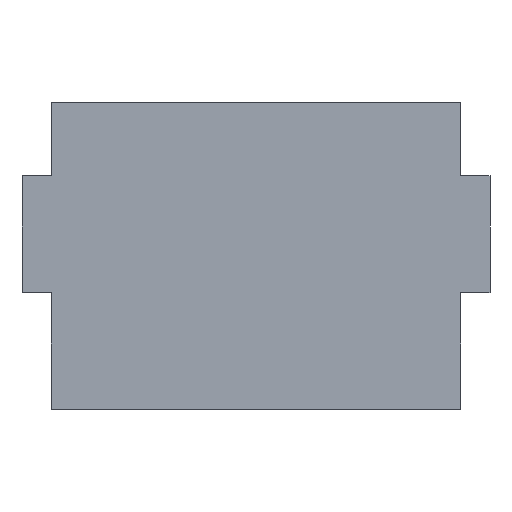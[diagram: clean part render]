
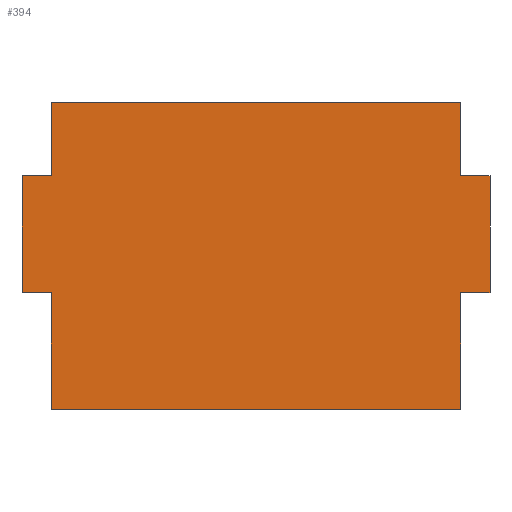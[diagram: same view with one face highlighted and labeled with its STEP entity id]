
A CAD part, front view. The second image highlights one B-rep face of the part: STEP entity #394.
In plain terms, the highlighted planar face has unit normal (0, -1, 0).
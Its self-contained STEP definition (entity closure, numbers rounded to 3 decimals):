
#3 = CARTESIAN_POINT ( 'NONE',  ( -14., -1.5, 11.869 ) ) ;
#6 = EDGE_CURVE ( 'NONE', #433, #162, #389, .T. ) ;
#12 = ORIENTED_EDGE ( 'NONE', *, *, #346, .T. ) ;
#13 = EDGE_CURVE ( 'NONE', #458, #374, #77, .T. ) ;
#26 = ORIENTED_EDGE ( 'NONE', *, *, #204, .T. ) ;
#29 = VECTOR ( 'NONE', #63, 1000. ) ;
#30 = DIRECTION ( 'NONE',  ( -1., 0., 0. ) ) ;
#33 = EDGE_CURVE ( 'NONE', #382, #374, #300, .T. ) ;
#47 = ORIENTED_EDGE ( 'NONE', *, *, #6, .F. ) ;
#51 = ORIENTED_EDGE ( 'NONE', *, *, #71, .F. ) ;
#52 = EDGE_LOOP ( 'NONE', ( #406, #356, #12, #265, #136, #26, #439, #51, #47, #58, #215, #184 ) ) ;
#54 = LINE ( 'NONE', #92, #485 ) ;
#57 = DIRECTION ( 'NONE',  ( 0., 0., 1. ) ) ;
#58 = ORIENTED_EDGE ( 'NONE', *, *, #486, .F. ) ;
#59 = LINE ( 'NONE', #234, #226 ) ;
#61 = CARTESIAN_POINT ( 'NONE',  ( -16., -1.5, -1.131 ) ) ;
#63 = DIRECTION ( 'NONE',  ( 0., 0., 1. ) ) ;
#65 = CARTESIAN_POINT ( 'NONE',  ( -16., -1.5, 6.869 ) ) ;
#71 = EDGE_CURVE ( 'NONE', #162, #186, #99, .T. ) ;
#72 = CARTESIAN_POINT ( 'NONE',  ( -16., -1.5, 6.869 ) ) ;
#73 = CARTESIAN_POINT ( 'NONE',  ( -14., -1.5, 6.869 ) ) ;
#77 = LINE ( 'NONE', #65, #391 ) ;
#87 = AXIS2_PLACEMENT_3D ( 'NONE', #214, #249, #482 ) ;
#88 = LINE ( 'NONE', #225, #435 ) ;
#89 = VERTEX_POINT ( 'NONE', #227 ) ;
#92 = CARTESIAN_POINT ( 'NONE',  ( 14., -1.5, -1.131 ) ) ;
#99 = LINE ( 'NONE', #348, #157 ) ;
#100 = CARTESIAN_POINT ( 'NONE',  ( 14., -1.5, -9.131 ) ) ;
#122 = VECTOR ( 'NONE', #416, 1000. ) ;
#132 = DIRECTION ( 'NONE',  ( -1., 0., 0. ) ) ;
#136 = ORIENTED_EDGE ( 'NONE', *, *, #455, .F. ) ;
#144 = DIRECTION ( 'NONE',  ( 0., 0., 1. ) ) ;
#150 = DIRECTION ( 'NONE',  ( 1., 0., 0. ) ) ;
#155 = EDGE_CURVE ( 'NONE', #89, #398, #88, .T. ) ;
#157 = VECTOR ( 'NONE', #150, 1000. ) ;
#162 = VERTEX_POINT ( 'NONE', #3 ) ;
#167 = CARTESIAN_POINT ( 'NONE',  ( 16., -1.5, 6.869 ) ) ;
#169 = VECTOR ( 'NONE', #445, 1000. ) ;
#170 = PLANE ( 'NONE',  #87 ) ;
#173 = CARTESIAN_POINT ( 'NONE',  ( -14., -1.5, -1.131 ) ) ;
#184 = ORIENTED_EDGE ( 'NONE', *, *, #33, .F. ) ;
#186 = VERTEX_POINT ( 'NONE', #303 ) ;
#204 = EDGE_CURVE ( 'NONE', #285, #465, #59, .T. ) ;
#211 = VECTOR ( 'NONE', #57, 1000. ) ;
#214 = CARTESIAN_POINT ( 'NONE',  ( 0., -1.5, 0. ) ) ;
#215 = ORIENTED_EDGE ( 'NONE', *, *, #13, .T. ) ;
#225 = CARTESIAN_POINT ( 'NONE',  ( -14., -1.5, -9.131 ) ) ;
#226 = VECTOR ( 'NONE', #132, 1000. ) ;
#227 = CARTESIAN_POINT ( 'NONE',  ( -14., -1.5, -9.131 ) ) ;
#231 = FACE_OUTER_BOUND ( 'NONE', #52, .T. ) ;
#234 = CARTESIAN_POINT ( 'NONE',  ( 16., -1.5, 6.869 ) ) ;
#249 = DIRECTION ( 'NONE',  ( 0., -1., 0. ) ) ;
#262 = DIRECTION ( 'NONE',  ( 1., 0., 0. ) ) ;
#265 = ORIENTED_EDGE ( 'NONE', *, *, #333, .T. ) ;
#273 = VECTOR ( 'NONE', #144, 1000. ) ;
#280 = CARTESIAN_POINT ( 'NONE',  ( 14., -1.5, 6.869 ) ) ;
#284 = CARTESIAN_POINT ( 'NONE',  ( 14., -1.5, -1.131 ) ) ;
#285 = VERTEX_POINT ( 'NONE', #167 ) ;
#291 = DIRECTION ( 'NONE',  ( 0., 0., -1. ) ) ;
#295 = DIRECTION ( 'NONE',  ( 0., 0., -1. ) ) ;
#300 = LINE ( 'NONE', #330, #456 ) ;
#303 = CARTESIAN_POINT ( 'NONE',  ( 14., -1.5, 11.869 ) ) ;
#307 = LINE ( 'NONE', #280, #211 ) ;
#313 = VECTOR ( 'NONE', #295, 1000. ) ;
#317 = DIRECTION ( 'NONE',  ( 1., 0., 0. ) ) ;
#319 = LINE ( 'NONE', #72, #122 ) ;
#321 = CARTESIAN_POINT ( 'NONE',  ( 16., -1.5, 6.869 ) ) ;
#330 = CARTESIAN_POINT ( 'NONE',  ( -14., -1.5, -1.131 ) ) ;
#333 = EDGE_CURVE ( 'NONE', #424, #499, #54, .T. ) ;
#335 = LINE ( 'NONE', #489, #29 ) ;
#346 = EDGE_CURVE ( 'NONE', #398, #424, #386, .T. ) ;
#348 = CARTESIAN_POINT ( 'NONE',  ( -14., -1.5, 11.869 ) ) ;
#356 = ORIENTED_EDGE ( 'NONE', *, *, #155, .T. ) ;
#370 = CARTESIAN_POINT ( 'NONE',  ( -16., -1.5, 6.869 ) ) ;
#374 = VERTEX_POINT ( 'NONE', #61 ) ;
#377 = CARTESIAN_POINT ( 'NONE',  ( -14., -1.5, 6.869 ) ) ;
#382 = VERTEX_POINT ( 'NONE', #173 ) ;
#384 = EDGE_CURVE ( 'NONE', #89, #382, #335, .T. ) ;
#386 = LINE ( 'NONE', #453, #169 ) ;
#389 = LINE ( 'NONE', #73, #273 ) ;
#391 = VECTOR ( 'NONE', #291, 1000. ) ;
#394 = ADVANCED_FACE ( 'NONE', ( #231 ), #170, .T. ) ;
#398 = VERTEX_POINT ( 'NONE', #100 ) ;
#406 = ORIENTED_EDGE ( 'NONE', *, *, #384, .F. ) ;
#416 = DIRECTION ( 'NONE',  ( 1., 0., 0. ) ) ;
#418 = LINE ( 'NONE', #321, #313 ) ;
#422 = CARTESIAN_POINT ( 'NONE',  ( 14., -1.5, 6.869 ) ) ;
#424 = VERTEX_POINT ( 'NONE', #284 ) ;
#433 = VERTEX_POINT ( 'NONE', #377 ) ;
#435 = VECTOR ( 'NONE', #262, 1000. ) ;
#439 = ORIENTED_EDGE ( 'NONE', *, *, #451, .T. ) ;
#445 = DIRECTION ( 'NONE',  ( 0., 0., 1. ) ) ;
#451 = EDGE_CURVE ( 'NONE', #465, #186, #307, .T. ) ;
#453 = CARTESIAN_POINT ( 'NONE',  ( 14., -1.5, -9.131 ) ) ;
#455 = EDGE_CURVE ( 'NONE', #285, #499, #418, .T. ) ;
#456 = VECTOR ( 'NONE', #30, 1000. ) ;
#458 = VERTEX_POINT ( 'NONE', #370 ) ;
#465 = VERTEX_POINT ( 'NONE', #422 ) ;
#482 = DIRECTION ( 'NONE',  ( 0., 0., -1. ) ) ;
#485 = VECTOR ( 'NONE', #317, 1000. ) ;
#486 = EDGE_CURVE ( 'NONE', #458, #433, #319, .T. ) ;
#489 = CARTESIAN_POINT ( 'NONE',  ( -14., -1.5, -9.131 ) ) ;
#494 = CARTESIAN_POINT ( 'NONE',  ( 16., -1.5, -1.131 ) ) ;
#499 = VERTEX_POINT ( 'NONE', #494 ) ;
